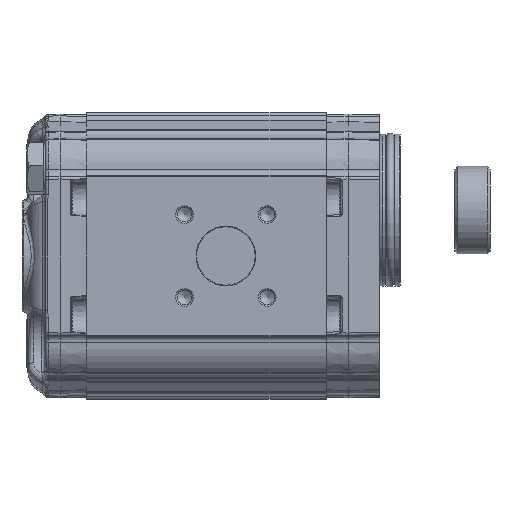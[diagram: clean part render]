
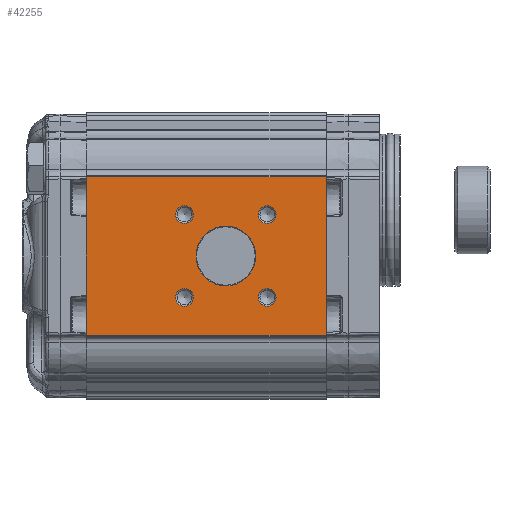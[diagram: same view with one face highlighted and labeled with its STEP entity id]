
A CAD part, left-side view. The second image highlights one B-rep face of the part: STEP entity #42255.
In plain terms, the highlighted planar face has unit normal (-1, 0, 0).
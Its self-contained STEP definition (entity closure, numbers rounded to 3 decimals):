
#3013=LINE('',#70183,#4527);
#3014=LINE('',#70186,#4528);
#3015=LINE('',#70188,#4529);
#3016=LINE('',#70190,#4530);
#4527=VECTOR('',#51354,1000.);
#4528=VECTOR('',#51355,1000.);
#4529=VECTOR('',#51356,1000.);
#4530=VECTOR('',#51357,1000.);
#11465=ORIENTED_EDGE('',*,*,#17618,.T.);
#11466=ORIENTED_EDGE('',*,*,#17619,.T.);
#11467=ORIENTED_EDGE('',*,*,#17620,.T.);
#11468=ORIENTED_EDGE('',*,*,#17621,.T.);
#11469=ORIENTED_EDGE('',*,*,#17622,.T.);
#11470=ORIENTED_EDGE('',*,*,#17623,.F.);
#11471=ORIENTED_EDGE('',*,*,#17624,.F.);
#11472=ORIENTED_EDGE('',*,*,#17625,.T.);
#11473=ORIENTED_EDGE('',*,*,#17626,.T.);
#17618=EDGE_CURVE('',#21015,#21015,#23070,.F.);
#17619=EDGE_CURVE('',#21016,#21016,#23071,.F.);
#17620=EDGE_CURVE('',#21017,#21017,#23072,.F.);
#17621=EDGE_CURVE('',#21018,#21018,#23073,.F.);
#17622=EDGE_CURVE('',#21019,#21019,#23074,.F.);
#17623=EDGE_CURVE('',#21020,#21021,#3013,.T.);
#17624=EDGE_CURVE('',#21022,#21020,#3014,.T.);
#17625=EDGE_CURVE('',#21022,#21023,#3015,.T.);
#17626=EDGE_CURVE('',#21023,#21021,#3016,.T.);
#21015=VERTEX_POINT('',#70174);
#21016=VERTEX_POINT('',#70176);
#21017=VERTEX_POINT('',#70178);
#21018=VERTEX_POINT('',#70180);
#21019=VERTEX_POINT('',#70182);
#21020=VERTEX_POINT('',#70184);
#21021=VERTEX_POINT('',#70185);
#21022=VERTEX_POINT('',#70187);
#21023=VERTEX_POINT('',#70189);
#23070=CIRCLE('',#45135,10.2);
#23071=CIRCLE('',#45136,3.);
#23072=CIRCLE('',#45137,3.);
#23073=CIRCLE('',#45138,3.);
#23074=CIRCLE('',#45139,3.);
#24760=EDGE_LOOP('',(#11465));
#24761=EDGE_LOOP('',(#11466));
#24762=EDGE_LOOP('',(#11467));
#24763=EDGE_LOOP('',(#11468));
#24764=EDGE_LOOP('',(#11469));
#24765=EDGE_LOOP('',(#11470,#11471,#11472,#11473));
#26880=FACE_BOUND('',#24760,.T.);
#26881=FACE_BOUND('',#24761,.T.);
#26882=FACE_BOUND('',#24762,.T.);
#26883=FACE_BOUND('',#24763,.T.);
#26884=FACE_BOUND('',#24764,.T.);
#26885=FACE_BOUND('',#24765,.T.);
#28055=PLANE('',#45134);
#42255=ADVANCED_FACE('',(#26880,#26881,#26882,#26883,#26884,#26885),#28055,
 .T.);
#45134=AXIS2_PLACEMENT_3D('',#70172,#51342,#51343);
#45135=AXIS2_PLACEMENT_3D('',#70173,#51344,#51345);
#45136=AXIS2_PLACEMENT_3D('',#70175,#51346,#51347);
#45137=AXIS2_PLACEMENT_3D('',#70177,#51348,#51349);
#45138=AXIS2_PLACEMENT_3D('',#70179,#51350,#51351);
#45139=AXIS2_PLACEMENT_3D('',#70181,#51352,#51353);
#51342=DIRECTION('',(-1.,0.,0.));
#51343=DIRECTION('',(0.,0.,1.));
#51344=DIRECTION('',(-1.,0.,0.));
#51345=DIRECTION('',(0.,0.,1.));
#51346=DIRECTION('',(-1.,0.,0.));
#51347=DIRECTION('',(0.,0.,1.));
#51348=DIRECTION('',(-1.,0.,0.));
#51349=DIRECTION('',(0.,0.,1.));
#51350=DIRECTION('',(-1.,0.,0.));
#51351=DIRECTION('',(0.,0.,1.));
#51352=DIRECTION('',(-1.,0.,0.));
#51353=DIRECTION('',(0.,0.,1.));
#51354=DIRECTION('',(0.,0.,-1.));
#51355=DIRECTION('',(0.,-1.,0.));
#51356=DIRECTION('',(0.,0.,-1.));
#51357=DIRECTION('',(0.,-1.,0.));
#70172=CARTESIAN_POINT('',(-43.,82.,27.048));
#70173=CARTESIAN_POINT('',(-43.,34.3,0.));
#70174=CARTESIAN_POINT('',(-43.,34.3,10.2));
#70175=CARTESIAN_POINT('',(-43.,48.442,-14.142));
#70176=CARTESIAN_POINT('',(-43.,48.442,-11.142));
#70177=CARTESIAN_POINT('',(-43.,48.442,14.142));
#70178=CARTESIAN_POINT('',(-43.,48.442,17.142));
#70179=CARTESIAN_POINT('',(-43.,20.158,14.142));
#70180=CARTESIAN_POINT('',(-43.,20.158,17.142));
#70181=CARTESIAN_POINT('',(-43.,20.158,-14.142));
#70182=CARTESIAN_POINT('',(-43.,20.158,-11.142));
#70183=CARTESIAN_POINT('',(-43.,0.,27.048));
#70184=CARTESIAN_POINT('',(-43.,0.,27.048));
#70185=CARTESIAN_POINT('',(-43.,0.,-27.048));
#70186=CARTESIAN_POINT('',(-43.,82.,27.048));
#70187=CARTESIAN_POINT('',(-43.,82.,27.048));
#70188=CARTESIAN_POINT('',(-43.,82.,27.048));
#70189=CARTESIAN_POINT('',(-43.,82.,-27.048));
#70190=CARTESIAN_POINT('',(-43.,82.,-27.048));
